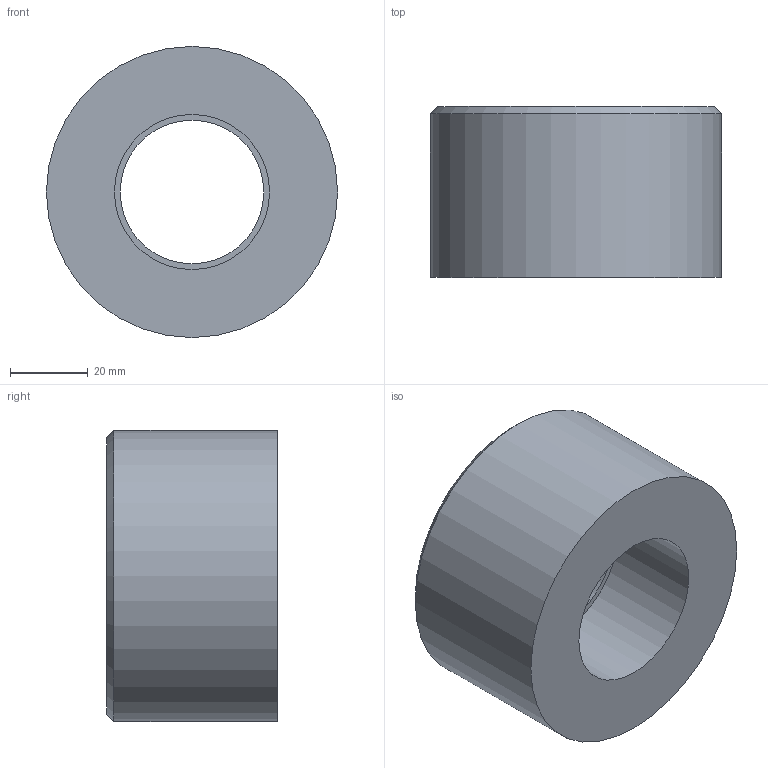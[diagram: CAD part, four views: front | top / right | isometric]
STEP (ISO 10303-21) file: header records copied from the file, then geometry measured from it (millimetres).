
FILE_DESCRIPTION(/* description */ ('PVC riduzione corta incollaggio metrica'),/* implementation_level */ '2;1');
FILE_NAME(/* name */ 'C:\Users\POLYPIPE\Desktop\DATASET INVENTOR\LIBRERIA EFFAST\RACCORDI 3DxWEB\RDR\3D_RDRRCD\3D_RDRRCD075E.stp',/* time_stamp */ '2018-01-19T15:31:46+01:00',/* author */ ('POLYPIPE'),/* organization */ ('Polypipe Italia s.r.l.'),/* preprocessor_version */ 'ST-DEVELOPER v16.1',/* originating_system */ 'Autodesk Inventor 2016',/* authorisation */ '');
FILE_SCHEMA (('CONFIG_CONTROL_DESIGN'));
Length unit declared in the file: millimetre
Products named in the file (1): 3D_RDRRCD
Bounding box: 75 x 44 x 75 mm (x, y, z)
Volume: 133483.5 mm3; surface area: 21575 mm2
Topology: 1 solids, 1 shells, 8 faces, 13 edges, 8 vertices
Faces by surface type: plane 3, cylinder 3, cone 2
Full cylindrical faces by diameter (mm): 37 x1, 40 x1, 75 x1
Entity records: 192 total; most frequent: DIRECTION 34, CARTESIAN_POINT 25, AXIS2_PLACEMENT_3D 17, EDGE_LOOP 16, ORIENTED_EDGE 16, FACE_BOUND 8, FACE_OUTER_BOUND 8, CIRCLE 8
